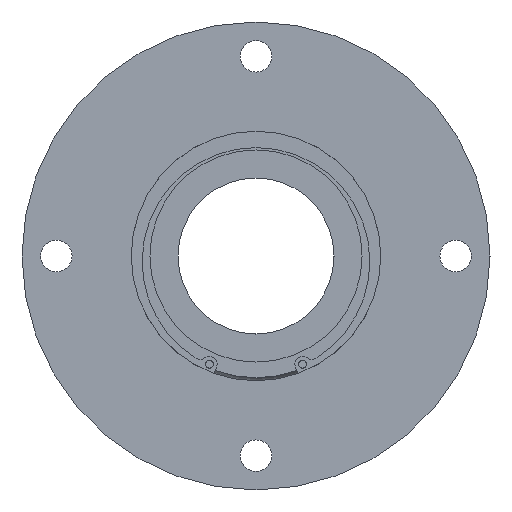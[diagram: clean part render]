
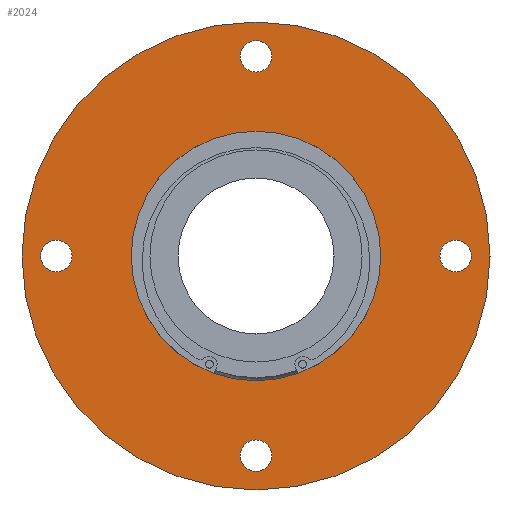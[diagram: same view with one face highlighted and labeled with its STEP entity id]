
A CAD part, left-side view. The second image highlights one B-rep face of the part: STEP entity #2024.
In plain terms, the highlighted planar face has unit normal (-1, 0, 0).
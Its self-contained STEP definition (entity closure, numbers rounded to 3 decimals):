
#987=CARTESIAN_POINT('',(0.0,64.0,-5.053));
#988=VERTEX_POINT('',#987);
#989=CARTESIAN_POINT('',(0.0,64.0,0.));
#990=DIRECTION('',(1.0,0.0,0.0));
#991=DIRECTION('',(0.0,0.0,-1.0));
#992=AXIS2_PLACEMENT_3D('',#989,#990,#991);
#993=CIRCLE('',#992,5.053);
#994=EDGE_CURVE('',#988,#988,#993,.T.);
#1015=CARTESIAN_POINT('',(0.0,-5.053,-64.0));
#1016=VERTEX_POINT('',#1015);
#1017=CARTESIAN_POINT('',(0.0,0.,-64.0));
#1018=DIRECTION('',(1.0,0.0,0.0));
#1019=DIRECTION('',(0.0,-1.0,0.0));
#1020=AXIS2_PLACEMENT_3D('',#1017,#1018,#1019);
#1021=CIRCLE('',#1020,5.053);
#1022=EDGE_CURVE('',#1016,#1016,#1021,.T.);
#1043=CARTESIAN_POINT('',(0.0,-64.0,5.053));
#1044=VERTEX_POINT('',#1043);
#1045=CARTESIAN_POINT('',(0.0,-64.0,0.));
#1046=DIRECTION('',(1.0,0.0,0.0));
#1047=DIRECTION('',(0.0,0.0,1.0));
#1048=AXIS2_PLACEMENT_3D('',#1045,#1046,#1047);
#1049=CIRCLE('',#1048,5.053);
#1050=EDGE_CURVE('',#1044,#1044,#1049,.T.);
#1071=CARTESIAN_POINT('',(0.0,5.053,64.0));
#1072=VERTEX_POINT('',#1071);
#1073=CARTESIAN_POINT('',(0.0,0.,64.0));
#1074=DIRECTION('',(1.0,0.0,0.0));
#1075=DIRECTION('',(0.0,1.0,0.0));
#1076=AXIS2_PLACEMENT_3D('',#1073,#1074,#1075);
#1077=CIRCLE('',#1076,5.053);
#1078=EDGE_CURVE('',#1072,#1072,#1077,.T.);
#1972=CARTESIAN_POINT('',(0.0,0.0,40.0));
#1973=VERTEX_POINT('',#1972);
#1974=CARTESIAN_POINT('',(0.0,0.0,0.0));
#1975=DIRECTION('',(-1.0,0.0,0.0));
#1976=DIRECTION('',(0.0,0.0,1.0));
#1977=AXIS2_PLACEMENT_3D('',#1974,#1975,#1976);
#1978=CIRCLE('',#1977,40.0);
#1979=EDGE_CURVE('',#1973,#1973,#1978,.T.);
#1993=CARTESIAN_POINT('',(0.0,0.0,57.5));
#1994=DIRECTION('',(-1.0,0.0,0.0));
#1995=DIRECTION('',(0.0,0.0,1.0));
#1996=AXIS2_PLACEMENT_3D('',#1993,#1994,#1995);
#1997=PLANE('',#1996);
#1998=CARTESIAN_POINT('',(0.0,0.0,75.0));
#1999=VERTEX_POINT('',#1998);
#2000=CARTESIAN_POINT('',(0.0,0.0,0.0));
#2001=DIRECTION('',(-1.0,0.0,0.0));
#2002=DIRECTION('',(0.0,0.0,1.0));
#2003=AXIS2_PLACEMENT_3D('',#2000,#2001,#2002);
#2004=CIRCLE('',#2003,75.0);
#2005=EDGE_CURVE('',#1999,#1999,#2004,.T.);
#2006=ORIENTED_EDGE('',*,*,#2005,.T.);
#2007=EDGE_LOOP('',(#2006));
#2008=FACE_OUTER_BOUND('',#2007,.T.);
#2009=ORIENTED_EDGE('',*,*,#994,.T.);
#2010=EDGE_LOOP('',(#2009));
#2011=FACE_BOUND('',#2010,.T.);
#2012=ORIENTED_EDGE('',*,*,#1022,.T.);
#2013=EDGE_LOOP('',(#2012));
#2014=FACE_BOUND('',#2013,.T.);
#2015=ORIENTED_EDGE('',*,*,#1050,.T.);
#2016=EDGE_LOOP('',(#2015));
#2017=FACE_BOUND('',#2016,.T.);
#2018=ORIENTED_EDGE('',*,*,#1078,.T.);
#2019=EDGE_LOOP('',(#2018));
#2020=FACE_BOUND('',#2019,.T.);
#2021=ORIENTED_EDGE('',*,*,#1979,.F.);
#2022=EDGE_LOOP('',(#2021));
#2023=FACE_BOUND('',#2022,.T.);
#2024=ADVANCED_FACE('',(#2008,#2011,#2014,#2017,#2020,#2023),#1997,.T.);
